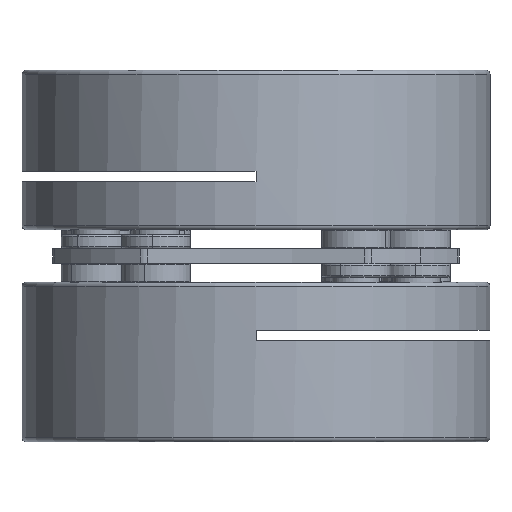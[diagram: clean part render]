
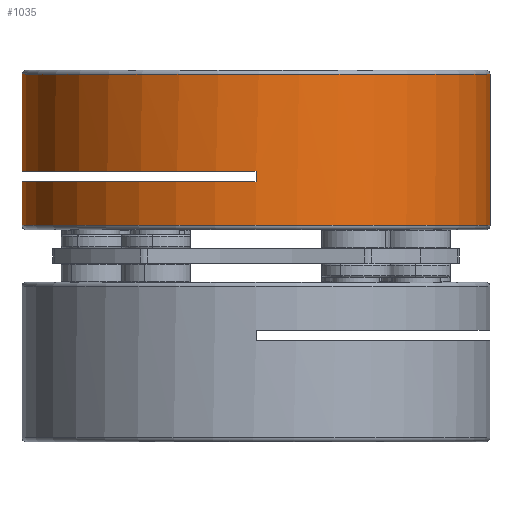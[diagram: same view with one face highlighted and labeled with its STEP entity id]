
A CAD part, front view. The second image highlights one B-rep face of the part: STEP entity #1035.
In plain terms, the highlighted cylindrical face has radius 44 mm (diameter 88 mm), a partial arc.
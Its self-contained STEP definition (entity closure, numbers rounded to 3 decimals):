
#641 = EDGE_CURVE ( 'NONE', #642, #811, #3117, .T. ) ;
#642 = VERTEX_POINT ( 'NONE', #3113 ) ;
#647 = VERTEX_POINT ( 'NONE', #3102 ) ;
#650 = VERTEX_POINT ( 'NONE', #3096 ) ;
#811 = VERTEX_POINT ( 'NONE', #3438 ) ;
#964 = ORIENTED_EDGE ( 'NONE', *, *, #987, .T. ) ;
#965 = ORIENTED_EDGE ( 'NONE', *, *, #966, .T. ) ;
#966 = EDGE_CURVE ( 'NONE', #647, #650, #3635, .T. ) ;
#984 = EDGE_CURVE ( 'NONE', #642, #650, #3669, .T. ) ;
#987 = EDGE_CURVE ( 'NONE', #988, #647, #3787, .T. ) ;
#988 = VERTEX_POINT ( 'NONE', #3783 ) ;
#1035 = ADVANCED_FACE ( 'NONE', ( #4013 ), #3824, .T. ) ;
#1036 = EDGE_LOOP ( 'NONE', ( #1037, #1038, #1039, #1132, #1135, #1137, #964, #965 ) ) ;
#1037 = ORIENTED_EDGE ( 'NONE', *, *, #984, .F. ) ;
#1038 = ORIENTED_EDGE ( 'NONE', *, *, #641, .T. ) ;
#1039 = ORIENTED_EDGE ( 'NONE', *, *, #1040, .F. ) ;
#1040 = EDGE_CURVE ( 'NONE', #1041, #811, #3987, .T. ) ;
#1041 = VERTEX_POINT ( 'NONE', #4020 ) ;
#1042 = EDGE_CURVE ( 'NONE', #988, #1106, #4019, .T. ) ;
#1106 = VERTEX_POINT ( 'NONE', #4268 ) ;
#1132 = ORIENTED_EDGE ( 'NONE', *, *, #1133, .F. ) ;
#1133 = EDGE_CURVE ( 'NONE', #1134, #1041, #4144, .T. ) ;
#1134 = VERTEX_POINT ( 'NONE', #4139 ) ;
#1135 = ORIENTED_EDGE ( 'NONE', *, *, #1136, .T. ) ;
#1136 = EDGE_CURVE ( 'NONE', #1134, #1106, #4138, .T. ) ;
#1137 = ORIENTED_EDGE ( 'NONE', *, *, #1042, .F. ) ;
#3096 = CARTESIAN_POINT ( 'NONE',  ( 44., 0., 0.8 ) ) ;
#3102 = CARTESIAN_POINT ( 'NONE',  ( -44., 0., 0.8 ) ) ;
#3113 = CARTESIAN_POINT ( 'NONE',  ( 44., 0., 29.2 ) ) ;
#3114 = DIRECTION ( 'NONE',  ( 1., 0., 0. ) ) ;
#3115 = DIRECTION ( 'NONE',  ( 0., 0., -1. ) ) ;
#3116 = AXIS2_PLACEMENT_3D ( 'NONE', #3121, #3115, #3114 ) ;
#3117 = CIRCLE ( 'NONE', #3116, 44. ) ;
#3121 = CARTESIAN_POINT ( 'NONE',  ( 0., 0., 29.2 ) ) ;
#3438 = CARTESIAN_POINT ( 'NONE',  ( -43.989, -1., 29.2 ) ) ;
#3604 = DIRECTION ( 'NONE',  ( 1., 0., 0. ) ) ;
#3605 = DIRECTION ( 'NONE',  ( 0., 0., 1. ) ) ;
#3633 = CARTESIAN_POINT ( 'NONE',  ( 0., 0., 0.8 ) ) ;
#3634 = AXIS2_PLACEMENT_3D ( 'NONE', #3633, #3605, #3604 ) ;
#3635 = CIRCLE ( 'NONE', #3634, 44. ) ;
#3666 = DIRECTION ( 'NONE',  ( 0., 0., -1. ) ) ;
#3667 = VECTOR ( 'NONE', #3666, 1000. ) ;
#3668 = CARTESIAN_POINT ( 'NONE',  ( 44., 0., 30. ) ) ;
#3669 = LINE ( 'NONE', #3668, #3667 ) ;
#3783 = CARTESIAN_POINT ( 'NONE',  ( -44., 0., 9. ) ) ;
#3784 = DIRECTION ( 'NONE',  ( 0., 0., -1. ) ) ;
#3785 = VECTOR ( 'NONE', #3784, 1000. ) ;
#3786 = CARTESIAN_POINT ( 'NONE',  ( -44., 0., 30. ) ) ;
#3787 = LINE ( 'NONE', #3786, #3785 ) ;
#3823 = AXIS2_PLACEMENT_3D ( 'NONE', #3889, #3888, #3988 ) ;
#3824 = CYLINDRICAL_SURFACE ( 'NONE', #3823, 44. ) ;
#3883 = DIRECTION ( 'NONE',  ( 1., 0., 0. ) ) ;
#3884 = DIRECTION ( 'NONE',  ( 0., 0., 1. ) ) ;
#3885 = CARTESIAN_POINT ( 'NONE',  ( 0., 0., 9. ) ) ;
#3886 = AXIS2_PLACEMENT_3D ( 'NONE', #3885, #3884, #3883 ) ;
#3888 = DIRECTION ( 'NONE',  ( 0., 0., -1. ) ) ;
#3889 = CARTESIAN_POINT ( 'NONE',  ( 0., 0., 30. ) ) ;
#3985 = VECTOR ( 'NONE', #4021, 1000. ) ;
#3986 = CARTESIAN_POINT ( 'NONE',  ( -43.989, -1., 30. ) ) ;
#3987 = LINE ( 'NONE', #3986, #3985 ) ;
#3988 = DIRECTION ( 'NONE',  ( -1., 0., 0. ) ) ;
#4013 = FACE_OUTER_BOUND ( 'NONE', #1036, .T. ) ;
#4019 = CIRCLE ( 'NONE', #3886, 44. ) ;
#4020 = CARTESIAN_POINT ( 'NONE',  ( -43.989, -1., 11. ) ) ;
#4021 = DIRECTION ( 'NONE',  ( 0., 0., 1. ) ) ;
#4138 = LINE ( 'NONE', #4248, #4247 ) ;
#4139 = CARTESIAN_POINT ( 'NONE',  ( 0., -44., 11. ) ) ;
#4140 = DIRECTION ( 'NONE',  ( -1., 0., 0. ) ) ;
#4141 = DIRECTION ( 'NONE',  ( 0., 0., -1. ) ) ;
#4142 = CARTESIAN_POINT ( 'NONE',  ( 0., 0., 11. ) ) ;
#4143 = AXIS2_PLACEMENT_3D ( 'NONE', #4142, #4141, #4140 ) ;
#4144 = CIRCLE ( 'NONE', #4143, 44. ) ;
#4246 = DIRECTION ( 'NONE',  ( 0., 0., -1. ) ) ;
#4247 = VECTOR ( 'NONE', #4246, 1000. ) ;
#4248 = CARTESIAN_POINT ( 'NONE',  ( 0., -44., 30. ) ) ;
#4268 = CARTESIAN_POINT ( 'NONE',  ( 0., -44., 9. ) ) ;
